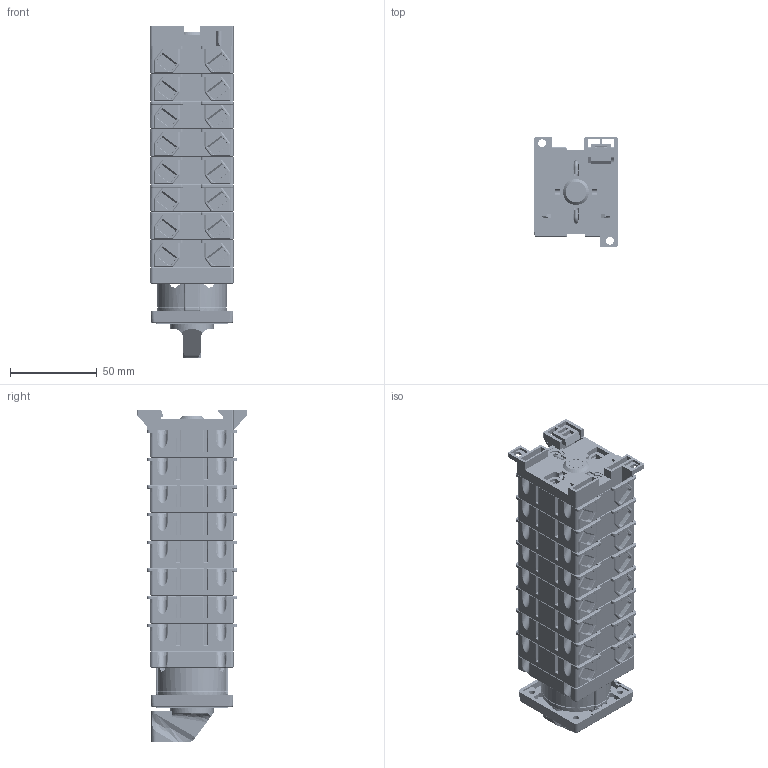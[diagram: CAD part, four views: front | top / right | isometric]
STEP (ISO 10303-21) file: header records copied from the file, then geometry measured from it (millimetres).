
FILE_DESCRIPTION (( 'STEP AP214' ), '1' );
FILE_NAME ('Ïåðåêëþ÷àòåëü 4G16,25-XXXX-OU-R114 ÃÆÈÊ.642212 8ê.STEP', '2024-07-31T07:43:01', ( '' ), ( '' ), 'SwSTEP 2.0', 'SolidWorks 2018', '' );
FILE_SCHEMA (( 'AUTOMOTIVE_DESIGN' ));
Length unit declared in the file: millimetre
Products named in the file (1): Ïåðåêëþ÷àòåëü 4G16,25-XXXX-OU-R114 ÃÆÈÊ.642212 8ê
Bounding box: 48 x 64 x 191.9 mm (x, y, z)
Volume: 349354.2 mm3; surface area: 144151.9 mm2
Topology: 27 solids, 91 shells, 7714 faces, 20306 edges, 12892 vertices
Faces by surface type: plane 4534, cylinder 2286, torus 398, cone 325, bspline 113, sphere 58
Entity records: 331980 total; most frequent: CARTESIAN_POINT 58441, ORIENTED_EDGE 40506, DIRECTION 38067, EDGE_CURVE 20253, LINE 14245, VECTOR 14245, VERTEX_POINT 12876, AXIS2_PLACEMENT_3D 11911
